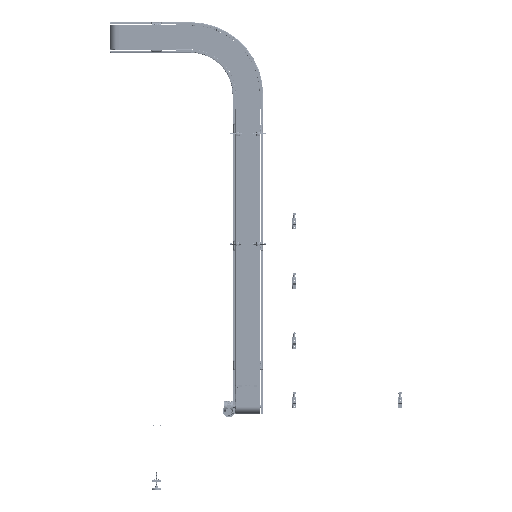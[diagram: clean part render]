
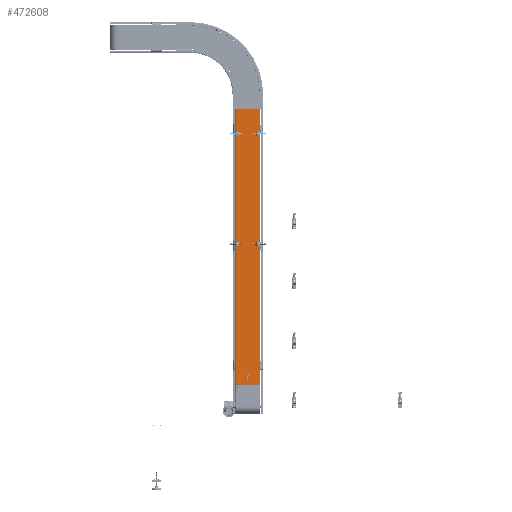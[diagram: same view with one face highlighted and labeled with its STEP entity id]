
A CAD part, top view. The second image highlights one B-rep face of the part: STEP entity #472608.
In plain terms, the highlighted planar face has unit normal (0, 0, 1) as drawn and (0, 1, 0) by its records, which use the part's own axes.
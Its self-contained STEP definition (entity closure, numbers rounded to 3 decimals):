
#14742 = VERTEX_POINT ( 'NONE', #364461 ) ;
#26519 = VERTEX_POINT ( 'NONE', #149410 ) ;
#29795 = VERTEX_POINT ( 'NONE', #83066 ) ;
#36231 = DIRECTION ( 'NONE',  ( 0., 1., 0. ) ) ;
#47560 = VERTEX_POINT ( 'NONE', #80127 ) ;
#53270 = LINE ( 'NONE', #183340, #208846 ) ;
#55796 = LINE ( 'NONE', #400778, #300412 ) ;
#78564 = CARTESIAN_POINT ( 'NONE',  ( -4.785, 4.83, 69.036 ) ) ;
#80127 = CARTESIAN_POINT ( 'NONE',  ( 11.228, 4.83, 69.036 ) ) ;
#81846 = DIRECTION ( 'NONE',  ( -0.065, 0., 0.998 ) ) ;
#83066 = CARTESIAN_POINT ( 'NONE',  ( -127., 4.83, 0. ) ) ;
#93309 = VECTOR ( 'NONE', #241732, 1000. ) ;
#95472 = DIRECTION ( 'NONE',  ( 1., 0., 0. ) ) ;
#110917 = CARTESIAN_POINT ( 'NONE',  ( 0., 4.83, 50. ) ) ;
#112210 = LINE ( 'NONE', #502363, #360278 ) ;
#113589 = EDGE_CURVE ( 'NONE', #47560, #163543, #416216, .T. ) ;
#121132 = FACE_BOUND ( 'NONE', #464115, .T. ) ;
#121556 = CARTESIAN_POINT ( 'NONE',  ( -7.785, 4.83, 114.776 ) ) ;
#121789 = LINE ( 'NONE', #336682, #337965 ) ;
#124533 = VECTOR ( 'NONE', #81846, 1000. ) ;
#142182 = CARTESIAN_POINT ( 'NONE',  ( 127., 4.83, 2940. ) ) ;
#149410 = CARTESIAN_POINT ( 'NONE',  ( 0., 4.83, 108.492 ) ) ;
#155993 = VERTEX_POINT ( 'NONE', #406751 ) ;
#157367 = DIRECTION ( 'NONE',  ( -0.508, 0., 0.861 ) ) ;
#163543 = VERTEX_POINT ( 'NONE', #320108 ) ;
#165032 = DIRECTION ( 'NONE',  ( -0.065, 0., -0.998 ) ) ;
#167970 = ORIENTED_EDGE ( 'NONE', *, *, #343439, .T. ) ;
#169071 = PLANE ( 'NONE',  #247231 ) ;
#176824 = EDGE_CURVE ( 'NONE', #14742, #343970, #218614, .T. ) ;
#177824 = EDGE_LOOP ( 'NONE', ( #385555, #229509, #433855, #167970 ) ) ;
#183032 = EDGE_CURVE ( 'NONE', #26519, #293228, #191748, .T. ) ;
#183340 = CARTESIAN_POINT ( 'NONE',  ( -127., 4.83, 2940. ) ) ;
#191748 = LINE ( 'NONE', #499862, #375269 ) ;
#195430 = EDGE_CURVE ( 'NONE', #241607, #29795, #53270, .T. ) ;
#200414 = EDGE_CURVE ( 'NONE', #448607, #47560, #538698, .T. ) ;
#208846 = VECTOR ( 'NONE', #398243, 1000. ) ;
#218614 = LINE ( 'NONE', #142182, #361565 ) ;
#229509 = ORIENTED_EDGE ( 'NONE', *, *, #534174, .F. ) ;
#241607 = VERTEX_POINT ( 'NONE', #475248 ) ;
#241657 = VECTOR ( 'NONE', #157367, 1000. ) ;
#241732 = DIRECTION ( 'NONE',  ( 1., 0., 0. ) ) ;
#247231 = AXIS2_PLACEMENT_3D ( 'NONE', #336033, #36231, #550917 ) ;
#256583 = EDGE_CURVE ( 'NONE', #163543, #155993, #277750, .T. ) ;
#257163 = EDGE_CURVE ( 'NONE', #293228, #448607, #348644, .T. ) ;
#263285 = CARTESIAN_POINT ( 'NONE',  ( 127., 4.83, 0. ) ) ;
#277750 = LINE ( 'NONE', #496707, #241657 ) ;
#283362 = DIRECTION ( 'NONE',  ( -0.508, 0., -0.861 ) ) ;
#293228 = VERTEX_POINT ( 'NONE', #542628 ) ;
#295758 = VECTOR ( 'NONE', #165032, 1000. ) ;
#300412 = VECTOR ( 'NONE', #95472, 1000. ) ;
#320108 = CARTESIAN_POINT ( 'NONE',  ( 0., 4.83, 50. ) ) ;
#336033 = CARTESIAN_POINT ( 'NONE',  ( 127., 4.83, 2940. ) ) ;
#336682 = CARTESIAN_POINT ( 'NONE',  ( -7.785, 4.83, 114.776 ) ) ;
#337965 = VECTOR ( 'NONE', #421485, 1000. ) ;
#340622 = ORIENTED_EDGE ( 'NONE', *, *, #113589, .F. ) ;
#343439 = EDGE_CURVE ( 'NONE', #241607, #14742, #55796, .T. ) ;
#343970 = VERTEX_POINT ( 'NONE', #366068 ) ;
#348644 = LINE ( 'NONE', #433459, #295758 ) ;
#352831 = ORIENTED_EDGE ( 'NONE', *, *, #393175, .F. ) ;
#358026 = CARTESIAN_POINT ( 'NONE',  ( 4.785, 4.83, 69.036 ) ) ;
#360278 = VECTOR ( 'NONE', #507897, 1000. ) ;
#361565 = VECTOR ( 'NONE', #478728, 1000. ) ;
#364226 = DIRECTION ( 'NONE',  ( 0.778, 0., 0.628 ) ) ;
#364461 = CARTESIAN_POINT ( 'NONE',  ( 127., 4.83, 2940. ) ) ;
#365953 = ORIENTED_EDGE ( 'NONE', *, *, #200414, .F. ) ;
#366068 = CARTESIAN_POINT ( 'NONE',  ( 127., 4.83, 0. ) ) ;
#369185 = VECTOR ( 'NONE', #435758, 1000. ) ;
#375269 = VECTOR ( 'NONE', #364226, 1000. ) ;
#385555 = ORIENTED_EDGE ( 'NONE', *, *, #176824, .T. ) ;
#389397 = VERTEX_POINT ( 'NONE', #78564 ) ;
#389930 = LINE ( 'NONE', #121556, #124533 ) ;
#393175 = EDGE_CURVE ( 'NONE', #389397, #400780, #389930, .T. ) ;
#398243 = DIRECTION ( 'NONE',  ( 0., 0., -1. ) ) ;
#400778 = CARTESIAN_POINT ( 'NONE',  ( 127., 4.83, 2940. ) ) ;
#400780 = VERTEX_POINT ( 'NONE', #465565 ) ;
#406751 = CARTESIAN_POINT ( 'NONE',  ( -11.228, 4.83, 69.036 ) ) ;
#416216 = LINE ( 'NONE', #110917, #533583 ) ;
#421485 = DIRECTION ( 'NONE',  ( 0.778, 0., -0.628 ) ) ;
#433459 = CARTESIAN_POINT ( 'NONE',  ( 7.785, 4.83, 114.776 ) ) ;
#433855 = ORIENTED_EDGE ( 'NONE', *, *, #195430, .F. ) ;
#435758 = DIRECTION ( 'NONE',  ( 1., 0., 0. ) ) ;
#438399 = ORIENTED_EDGE ( 'NONE', *, *, #256583, .F. ) ;
#448607 = VERTEX_POINT ( 'NONE', #358026 ) ;
#456652 = CARTESIAN_POINT ( 'NONE',  ( 11.228, 4.83, 69.036 ) ) ;
#463232 = FACE_OUTER_BOUND ( 'NONE', #177824, .T. ) ;
#464115 = EDGE_LOOP ( 'NONE', ( #469222, #352831, #550062, #438399, #340622, #365953, #539412, #514706 ) ) ;
#465565 = CARTESIAN_POINT ( 'NONE',  ( -7.785, 4.83, 114.776 ) ) ;
#469222 = ORIENTED_EDGE ( 'NONE', *, *, #500653, .F. ) ;
#472608 = ADVANCED_FACE ( 'NONE', ( #121132, #463232 ), #169071, .T. ) ;
#475248 = CARTESIAN_POINT ( 'NONE',  ( -127., 4.83, 2940. ) ) ;
#478728 = DIRECTION ( 'NONE',  ( 0., 0., -1. ) ) ;
#486435 = EDGE_CURVE ( 'NONE', #155993, #389397, #112210, .T. ) ;
#496707 = CARTESIAN_POINT ( 'NONE',  ( 0., 4.83, 50. ) ) ;
#499862 = CARTESIAN_POINT ( 'NONE',  ( 7.785, 4.83, 114.776 ) ) ;
#500653 = EDGE_CURVE ( 'NONE', #400780, #26519, #121789, .T. ) ;
#502363 = CARTESIAN_POINT ( 'NONE',  ( -11.228, 4.83, 69.036 ) ) ;
#507897 = DIRECTION ( 'NONE',  ( 1., 0., 0. ) ) ;
#514706 = ORIENTED_EDGE ( 'NONE', *, *, #183032, .F. ) ;
#528977 = LINE ( 'NONE', #263285, #369185 ) ;
#533583 = VECTOR ( 'NONE', #283362, 1000. ) ;
#534174 = EDGE_CURVE ( 'NONE', #29795, #343970, #528977, .T. ) ;
#538698 = LINE ( 'NONE', #456652, #93309 ) ;
#539412 = ORIENTED_EDGE ( 'NONE', *, *, #257163, .F. ) ;
#542628 = CARTESIAN_POINT ( 'NONE',  ( 7.785, 4.83, 114.776 ) ) ;
#550062 = ORIENTED_EDGE ( 'NONE', *, *, #486435, .F. ) ;
#550917 = DIRECTION ( 'NONE',  ( 0., 0., 1. ) ) ;
